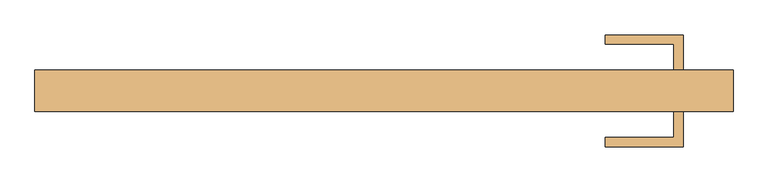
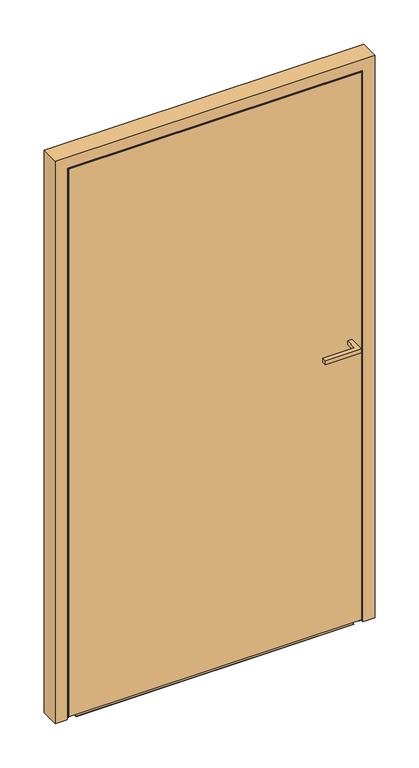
"""IFC4 building model written with IfcOpenShell, lengths in millimetres: door geometry, Reynaers_CS 77_Door_Panel_Outward Opening_Single Vent_Double Sided : Reynaers_CS 77_Door_Panel_Outward Opening_Single Vent_Double Sided."""

from ifc_helpers import new_model, si_unit, frame, origin, place, context, project, spatial, polyline, circle_curve, outline, extrude, faceted_brep, source, transform, mapped, element, save
from ifc_brep_helpers import plane_surface, cylinder_surface, revolved_surface, advanced_brep


def door_2ac161dd(model_context):
    return source(origin(), model_context, "Body", "SolidModel", [
        extrude(outline(polyline([(488.5, -42.5), (488.5, -100.0), (361.0, -100.0), (361.0, -85.0), (473.5, -85.0), (473.5, -42.5), (488.5, -42.5)])), frame((0.0, 0.0, 1062.5), z_axis=(0.0, 0.0, 1.0), x_axis=(1.0, 0.0, 0.0)), (0.0, 0.0, 1.0), 15.0),
        extrude(outline(polyline([(488.5, 25.5), (473.5, 25.5), (473.5, 68.0), (361.0, 68.0), (361.0, 83.0), (488.5, 83.0), (488.5, 25.5)])), frame((0.0, 0.0, 1062.5), z_axis=(0.0, 0.0, 1.0), x_axis=(1.0, 0.0, 0.0)), (0.0, 0.0, 1.0), 15.0),
        extrude(outline(polyline([(496.0, -4.5), (-496.0, -4.5), (-496.0, -1.5), (496.0, -1.5), (496.0, -4.5)])), frame((0.0, 0.0, 24.4991379), z_axis=(0.0, 0.0, 1.0), x_axis=(1.0, 0.0, 0.0)), (0.0, 0.0, 1.0), 2021.5037602),
        extrude(outline(polyline([(522.0, -42.5), (-522.0, -42.5), (-522.0, -39.5), (522.0, -39.5), (522.0, -42.5)])), frame((0.0, 0.0, 10.5), z_axis=(0.0, 0.0, 1.0), x_axis=(1.0, 0.0, 0.0)), (0.0, 0.0, 1.0), 2061.5),
        extrude(outline(polyline([(440.0, -4.5), (440.0, -39.5), (-440.0, -39.5), (-440.0, -4.5), (440.0, -4.5)])), frame((0.0, 0.0, 92.5), z_axis=(0.0, 0.0, 1.0), x_axis=(1.0, 0.0, 0.0)), (0.0, 0.0, 1.0), 1897.5),
        faceted_brep([(445.0, 22.091728, 1995.0), (445.0, 22.091728, 87.5), (445.0, -39.5, 87.5), (445.0, -39.5, 1995.0), (522.0, -39.5, 2072.0), (-522.0, -39.5, 2072.0), (-522.0, -39.5, 10.5), (522.0, -39.5, 10.5), (-445.0, -39.5, 1995.0), (-445.0, -39.5, 87.5), (-445.0, 22.091728, 87.5), (-496.0, 22.091728, 2046.0), (496.0, 22.091728, 2046.0), (496.0, 22.091728, 36.5), (-496.0, 22.091728, 36.5), (-445.0, 22.091728, 1995.0), (496.0, 16.691728, 2046.0), (496.0, 16.691728, 36.5), (-496.0, 16.691728, 36.5), (-507.0, 16.691728, 2057.0), (507.0, 16.691728, 2057.0), (507.0, 16.691728, 25.5), (-507.0, 16.691728, 25.5), (-496.0, 16.691728, 2046.0), (-507.0, -33.7, 25.5), (-507.0, -33.7, 2057.0), (507.0, -33.7, 25.5), (507.0, -33.7, 2057.0), (-522.0, -33.7, 2072.0), (522.0, -33.7, 2072.0), (522.0, -33.7, 10.5), (-522.0, -33.7, 10.5)], [[[0, 1, 2, 3]], [[4, 5, 6, 7], [8, 3, 2, 9]], [[1, 10, 9, 2]], [[11, 12, 13, 14], [0, 15, 10, 1]], [[16, 17, 13, 12]], [[17, 18, 14, 13]], [[19, 20, 21, 22], [16, 23, 18, 17]], [[10, 15, 8, 9]], [[18, 23, 11, 14]], [[24, 25, 19, 22]], [[26, 24, 22, 21]], [[27, 26, 21, 20]], [[28, 29, 30, 31], [27, 25, 24, 26]], [[4, 7, 30, 29]], [[7, 6, 31, 30]], [[6, 5, 28, 31]], [[15, 0, 3, 8]], [[23, 16, 12, 11]], [[25, 27, 20, 19]], [[5, 4, 29, 28]]]),
        faceted_brep([(-528.0, -33.7, 0.0), (-528.0, -42.5, 0.0), (-570.0, -42.5, 0.0), (-570.0, 25.5, 0.0), (-502.0, 25.5, 0.0), (-502.0, 21.7, 0.0), (-517.0, 21.7, 0.0), (-517.0, -33.7, 0.0), (-517.0, -33.7, 2067.0), (517.0, -33.7, 2067.0), (517.0, -33.7, 0.0), (528.0, -33.7, 0.0), (528.0, -33.7, 2078.0), (-528.0, -33.7, 2078.0), (-517.0, 21.7, 2067.0), (-502.0, 21.7, 2052.0), (502.0, 21.7, 2052.0), (502.0, 21.7, 0.0), (517.0, 21.7, 0.0), (517.0, 21.7, 2067.0), (-502.0, 25.5, 2052.0), (-570.0, 25.5, 2120.0), (570.0, 25.5, 2120.0), (570.0, 25.5, 0.0), (502.0, 25.5, 0.0), (502.0, 25.5, 2052.0), (-570.0, -42.5, 2120.0), (-528.0, -42.5, 2078.0), (528.0, -42.5, 2078.0), (528.0, -42.5, 0.0), (570.0, -42.5, 0.0), (570.0, -42.5, 2120.0)], [[[0, 1, 2, 3, 4, 5, 6, 7]], [[7, 8, 9, 10, 11, 12, 13, 0]], [[6, 14, 8, 7]], [[5, 15, 16, 17, 18, 19, 14, 6]], [[4, 20, 15, 5]], [[3, 21, 22, 23, 24, 25, 20, 4]], [[2, 26, 21, 3]], [[1, 27, 28, 29, 30, 31, 26, 2]], [[0, 13, 27, 1]], [[12, 11, 29, 28]], [[11, 10, 18, 17, 24, 23, 30, 29]], [[19, 18, 10, 9]], [[31, 30, 23, 22]], [[25, 24, 17, 16]], [[26, 31, 22, 21]], [[13, 12, 28, 27]], [[14, 19, 9, 8]], [[20, 25, 16, 15]]]),
        advanced_brep(
        [(496.0, 5.8251712, 24.7), (496.0, 12.4802098, 24.7), (-496.0, 12.4802098, 24.7), (-496.0, 5.8251712, 24.7), (496.0, 13.8173289, 23.9280139), (-496.0, 13.8173289, 23.9280139), (496.0, 15.1440031, 23.9280139), (-496.0, 15.1440031, 23.9280139), (496.0, 14.1253586, 17.259944), (-496.0, 14.1253586, 17.259944), (496.0, 9.3328852, 20.8033727), (-496.0, 9.3328852, 20.8033727), (496.0, 5.8251712, 23.5049578), (-496.0, 5.8251712, 23.5049578)],
        [
            (0, 1),
            (1, 2),
            (2, 3),
            (3, 0),
            (1, 4),
            (4, 5),
            (5, 2),
            (4, 6),
            (6, 7),
            (7, 5),
            (6, 8, circle_curve(frame((496.0, 14.9944621, 20.5338193), z_axis=(-1.0, 0.0, 0.0), x_axis=(0.0, 1.0, 0.0)), 3.3872704)),
            (8, 9),
            (9, 7, circle_curve(frame((-496.0, 14.9944621, 20.5338193), z_axis=(1.0, 0.0, 0.0), x_axis=(0.0, 1.0, 0.0)), 3.3872704)),
            (8, 10, circle_curve(frame((496.0, 16.6631573, 25.7049218), z_axis=(-1.0, 0.0, 0.0), x_axis=(0.0, 1.0, 0.0)), 8.8180539)),
            (10, 11),
            (11, 9, circle_curve(frame((-496.0, 16.6631573, 25.7049218), z_axis=(1.0, 0.0, 0.0), x_axis=(0.0, 1.0, 0.0)), 8.8180539)),
            (10, 12, circle_curve(frame((496.0, 1.0247942, 13.6442063), z_axis=(1.0, 0.0, 0.0), x_axis=(0.0, 1.0, 0.0)), 10.9671344)),
            (12, 13),
            (13, 11, circle_curve(frame((-496.0, 1.0247942, 13.6442063), z_axis=(-1.0, 0.0, 0.0), x_axis=(0.0, 1.0, 0.0)), 10.9671344)),
            (3, 13),
            (12, 0),
        ],
        [
            plane_surface(frame((522.0, 5.8251712, 24.7), z_axis=(0.0, 0.0, 1.0), x_axis=(-1.0, 0.0, 0.0))),
            plane_surface(frame((522.0, 12.4802098, 24.7), z_axis=(0.0, 0.5000000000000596, 0.8660254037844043), x_axis=(-1.0, 0.0, 0.0))),
            plane_surface(frame((522.0, 13.8173289, 23.9280139), z_axis=(0.0, 0.0, 1.0), x_axis=(-1.0, 0.0, 0.0))),
            cylinder_surface(frame((522.0, 14.9944621, 20.5338193), z_axis=(1.0, 0.0, 0.0), x_axis=(0.0, 1.0, 0.0)), 3.3872704),
            cylinder_surface(frame((522.0, 16.6631573, 25.7049218), z_axis=(1.0, 0.0, 0.0), x_axis=(0.0, 1.0, 0.0)), 8.8180539),
            revolved_surface(polyline([(-496.0, 11.991928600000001, 13.6442063), (496.0, 11.991928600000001, 13.6442063)]), (522.0, 1.0247942, 13.6442063), (-1.0, 0.0, 0.0)),
            plane_surface(frame((522.0, 5.8251712, 23.5049578), z_axis=(0.0, -1.0, 0.0), x_axis=(-1.0, 0.0, 0.0))),
            plane_surface(frame((-496.0, 120.824421, 0.0), z_axis=(-1.0, 0.0, 0.0), x_axis=(0.0, -1.0, 0.0))),
            plane_surface(frame((496.0, 120.824421, 36.5), z_axis=(1.0, 0.0, 0.0), x_axis=(0.0, -1.0, 0.0))),
        ],
        [
            (0, [[1, 2, 3, 4]]),
            (1, [[5, 6, 7, -2]]),
            (2, [[8, 9, 10, -6]]),
            (3, [[11, 12, 13, -9]]),
            (4, [[14, 15, 16, -12]]),
            (5, [[17, 18, 19, -15]]),
            (6, [[20, -18, 21, -4]]),
            (7, [[-7, -10, -13, -16, -19, -20, -3]]),
            (8, [[-21, -17, -14, -11, -8, -5, -1]]),
        ],
    ),
        extrude(outline(polyline([(-42.5, 1.9998842), (-33.5, 2.4715542), (-33.5, 12.0), (11.1401434, 12.0), (17.3418049, 19.3908525), (25.5, 13.6784228), (25.5, 1.0), (-42.5, 1.0), (-42.5, 1.9998842)])), frame((-496.0, 0.0, 0.0), z_axis=(1.0, 0.0, 0.0), x_axis=(0.0, 1.0, 0.0)), (0.0, 0.0, 1.0), 992.0),
    ])


if __name__ == "__main__":
    model = new_model("IFC4")
    model_context = context("Model", 3, world=origin())
    ifc_project = project(units=[si_unit("LENGTHUNIT", "METRE", prefix="MILLI")], contexts=[model_context])
    site = spatial("IfcSite", under=ifc_project)
    building = spatial("IfcBuilding", under=site)
    placement = place(None, origin())
    door_shape = door_2ac161dd(model_context)
    element("IfcDoor", 1, ObjectType="Reynaers_CS 77_Door_Panel_Outward Opening_Single Vent_Double Sided : Reynaers_CS 77_Door_Panel_Outward Opening_Single Vent_Double Sided", at=placement, inside=building, context=model_context, shape_type="MappedRepresentation", body=[
        mapped(door_shape, transform((0.0, 0.0, 0.0), x_axis=(1.0, 0.0, 0.0), y_axis=(0.0, 1.0, 0.0), z_axis=(0.0, 0.0, 1.0))),
    ])
    save(model, "model.ifc")
